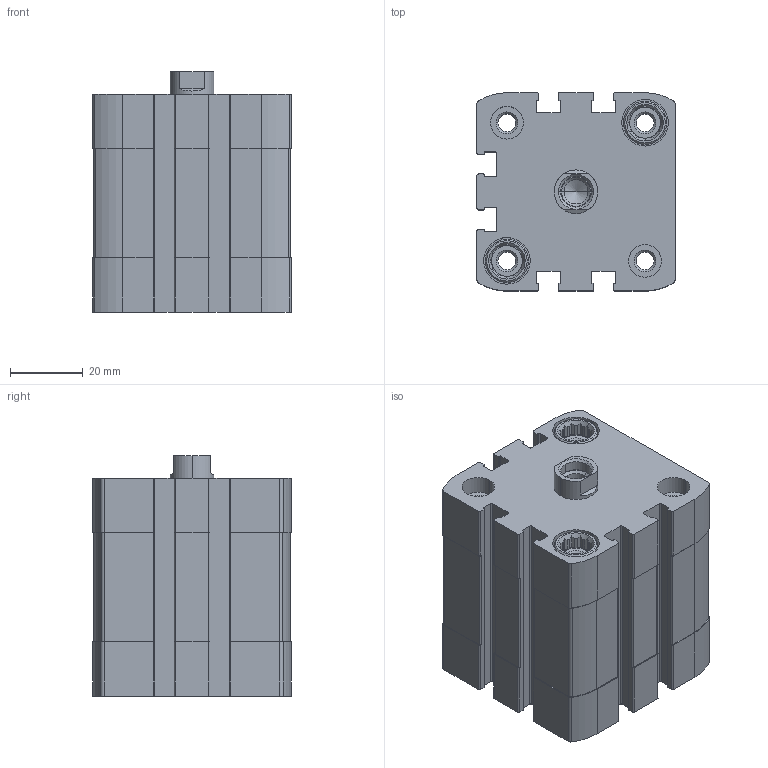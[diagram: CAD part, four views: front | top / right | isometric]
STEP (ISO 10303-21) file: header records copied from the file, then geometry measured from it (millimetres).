
FILE_DESCRIPTION (( 'STEP AP203' ), '1' );
FILE_NAME ('CCN40-15F.STEP', '2017-03-29T14:45:50', ( '' ), ( '' ), 'SwSTEP 2.0', 'SolidWorks 2016', '' );
FILE_SCHEMA (( 'CONFIG_CONTROL_DESIGN' ));
Length unit declared in the file: millimetre
Products named in the file (3): CCN-15                                                                                                                                                                (Z); CCN-15_(KS); CCN40-15F
Assembly tree (2 placements, depth 2):
  CCN40-15F
    CCN-15                                                                                                                                                                (Z)
    CCN-15_(KS)
Bounding box: 54.5 x 54.5 x 66.1 mm (x, y, z)
Volume: 136632.8 mm3; surface area: 41538.7 mm2
Topology: 2 solids, 2 shells, 479 faces, 1296 edges, 851 vertices
Faces by surface type: plane 267, cylinder 170, cone 42
Entity records: 15569 total; most frequent: CARTESIAN_POINT 2923, DIRECTION 2648, ORIENTED_EDGE 2588, EDGE_CURVE 1294, AXIS2_PLACEMENT_3D 968, VERTEX_POINT 851, VECTOR 712, LINE 712
